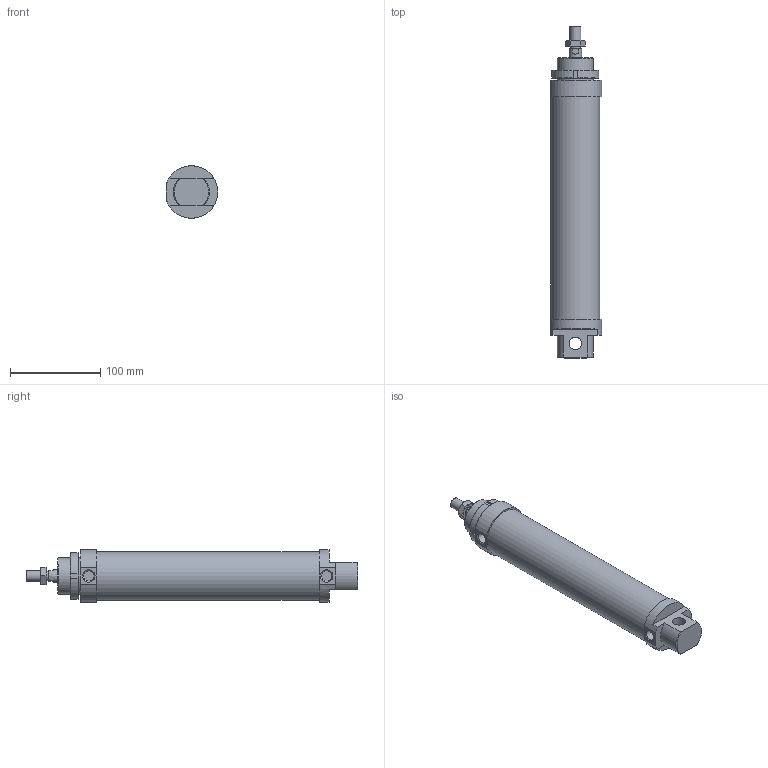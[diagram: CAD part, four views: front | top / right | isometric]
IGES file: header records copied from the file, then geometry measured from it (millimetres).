
Global section: file name: No Iges File Name specified; native system: AutoDesk Inventor R6.0; preprocessor: AutoDesk Inventor Iges Exporter R6.0; author: No Author specified; organization: No Organization specified; date: 20030402.145005; units: millimetre
Bounding box: 56.51 x 367 x 58 mm (x, y, z)
Surface area: 90527.2 mm2 (no closed solid volume)
Topology: 0 solids, 0 shells, 94 faces, 413 edges, 395 vertices
Faces by surface type: plane 44, revolution 39, bspline 11
